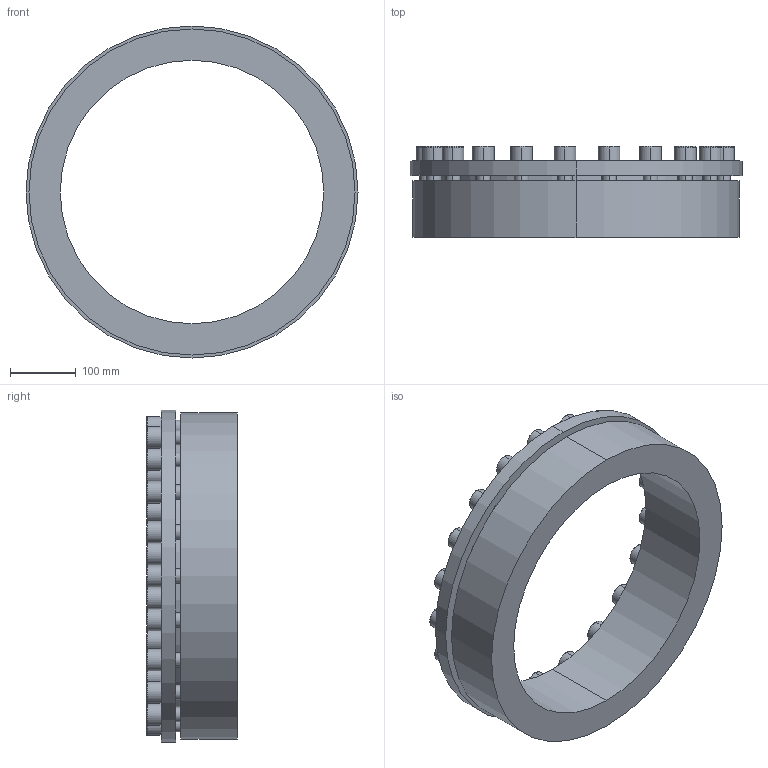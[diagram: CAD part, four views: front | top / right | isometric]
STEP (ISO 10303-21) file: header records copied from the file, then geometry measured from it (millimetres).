
FILE_DESCRIPTION (( 'STEP AP203' ), '1' );
FILE_NAME ('PL-H6 400-495.STEP', '2021-10-23T01:41:36', ( '' ), ( '' ), 'SwSTEP 2.0', 'SolidWorks 2018', '' );
FILE_SCHEMA (( 'CONFIG_CONTROL_DESIGN' ));
Length unit declared in the file: millimetre
Products named in the file (1): PL-H6 400-495
Bounding box: 504 x 138 x 504 mm (x, y, z)
Volume: 7865936.1 mm3; surface area: 637868.1 mm2
Topology: 1 solids, 1 shells, 306 faces, 738 edges, 478 vertices
Faces by surface type: plane 172, cylinder 92, torus 42
Entity records: 9099 total; most frequent: DIRECTION 1620, CARTESIAN_POINT 1523, ORIENTED_EDGE 1476, EDGE_CURVE 738, AXIS2_PLACEMENT_3D 575, VERTEX_POINT 478, LINE 470, VECTOR 470
